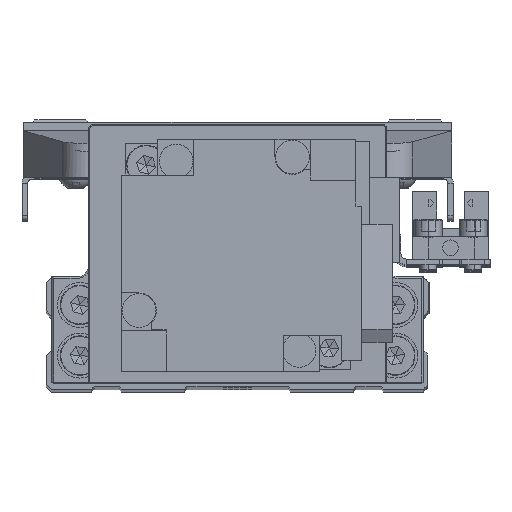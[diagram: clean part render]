
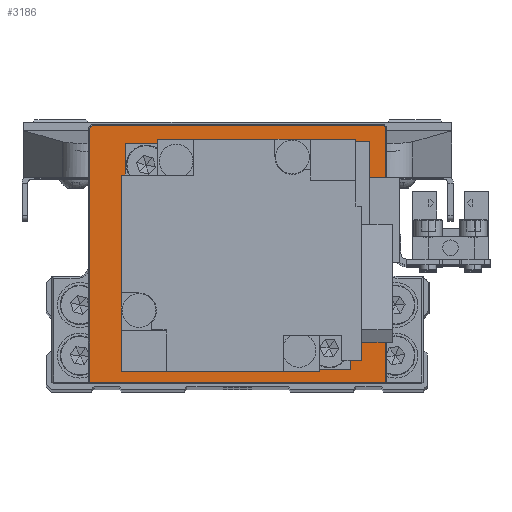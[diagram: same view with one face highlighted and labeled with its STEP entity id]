
A CAD part, top view. The second image highlights one B-rep face of the part: STEP entity #3186.
In plain terms, the highlighted planar face has unit normal (0, 0, 1) as drawn and (0, -1, 0) by its records, which use the part's own axes.
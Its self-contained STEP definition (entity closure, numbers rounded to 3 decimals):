
#492 = DIRECTION ( 'NONE',  ( 0., -1., 0. ) ) ;
#851 = VERTEX_POINT ( 'NONE', #4071 ) ;
#1917 = AXIS2_PLACEMENT_3D ( 'NONE', #26600, #492, #12105 ) ;
#3186 = ADVANCED_FACE ( 'NONE', ( #8286 ), #19940, .T. ) ;
#3790 = LINE ( 'NONE', #15436, #29613 ) ;
#4071 = CARTESIAN_POINT ( 'NONE',  ( -26.3, -4., -22.8 ) ) ;
#5434 = LINE ( 'NONE', #17064, #19137 ) ;
#5438 = DIRECTION ( 'NONE',  ( 0., -1., 0. ) ) ;
#6226 = EDGE_LOOP ( 'NONE', ( #12762, #14867, #15607, #31436, #28035, #10098 ) ) ;
#6418 = DIRECTION ( 'NONE',  ( -1., 0., 0. ) ) ;
#7171 = DIRECTION ( 'NONE',  ( 0., 0., -1. ) ) ;
#7871 = AXIS2_PLACEMENT_3D ( 'NONE', #24690, #36320, #10198 ) ;
#8286 = FACE_OUTER_BOUND ( 'NONE', #6226, .T. ) ;
#10098 = ORIENTED_EDGE ( 'NONE', *, *, #28899, .T. ) ;
#10198 = DIRECTION ( 'NONE',  ( 0., 0., -1. ) ) ;
#11699 = CARTESIAN_POINT ( 'NONE',  ( -26.3, -4., 22. ) ) ;
#12105 = DIRECTION ( 'NONE',  ( 0., 0., -1. ) ) ;
#12315 = EDGE_CURVE ( 'NONE', #26575, #28057, #24324, .T. ) ;
#12699 = VERTEX_POINT ( 'NONE', #15704 ) ;
#12762 = ORIENTED_EDGE ( 'NONE', *, *, #23945, .T. ) ;
#14762 = EDGE_CURVE ( 'NONE', #25586, #33697, #18372, .T. ) ;
#14867 = ORIENTED_EDGE ( 'NONE', *, *, #30197, .T. ) ;
#15436 = CARTESIAN_POINT ( 'NONE',  ( 26.5, -4., -22.8 ) ) ;
#15607 = ORIENTED_EDGE ( 'NONE', *, *, #12315, .T. ) ;
#15704 = CARTESIAN_POINT ( 'NONE',  ( 26.3, -4., -22.8 ) ) ;
#17064 = CARTESIAN_POINT ( 'NONE',  ( 26.3, -4., 22. ) ) ;
#17068 = DIRECTION ( 'NONE',  ( 0., 0., -1. ) ) ;
#17758 = CARTESIAN_POINT ( 'NONE',  ( -25.5, -4., 22.8 ) ) ;
#18372 = CIRCLE ( 'NONE', #1917, 0.8 ) ;
#19137 = VECTOR ( 'NONE', #28686, 1000. ) ;
#19940 = PLANE ( 'NONE',  #35268 ) ;
#20925 = LINE ( 'NONE', #32536, #23687 ) ;
#21671 = LINE ( 'NONE', #33283, #32540 ) ;
#23687 = VECTOR ( 'NONE', #6418, 1000. ) ;
#23945 = EDGE_CURVE ( 'NONE', #851, #12699, #3790, .T. ) ;
#24133 = CARTESIAN_POINT ( 'NONE',  ( 26.3, -4., 22. ) ) ;
#24324 = CIRCLE ( 'NONE', #7871, 0.8 ) ;
#24690 = CARTESIAN_POINT ( 'NONE',  ( 25.5, -4., 22. ) ) ;
#25586 = VERTEX_POINT ( 'NONE', #17758 ) ;
#26575 = VERTEX_POINT ( 'NONE', #24133 ) ;
#26600 = CARTESIAN_POINT ( 'NONE',  ( -25.5, -4., 22. ) ) ;
#27052 = DIRECTION ( 'NONE',  ( 1., 0., 0. ) ) ;
#27620 = EDGE_CURVE ( 'NONE', #28057, #25586, #20925, .T. ) ;
#28035 = ORIENTED_EDGE ( 'NONE', *, *, #14762, .T. ) ;
#28057 = VERTEX_POINT ( 'NONE', #30004 ) ;
#28686 = DIRECTION ( 'NONE',  ( 0., 0., 1. ) ) ;
#28899 = EDGE_CURVE ( 'NONE', #33697, #851, #21671, .T. ) ;
#29613 = VECTOR ( 'NONE', #27052, 1000. ) ;
#30004 = CARTESIAN_POINT ( 'NONE',  ( 25.5, -4., 22.8 ) ) ;
#30197 = EDGE_CURVE ( 'NONE', #12699, #26575, #5434, .T. ) ;
#31436 = ORIENTED_EDGE ( 'NONE', *, *, #27620, .T. ) ;
#31544 = CARTESIAN_POINT ( 'NONE',  ( 0., -4., 0. ) ) ;
#32536 = CARTESIAN_POINT ( 'NONE',  ( -25.5, -4., 22.8 ) ) ;
#32540 = VECTOR ( 'NONE', #7171, 1000. ) ;
#33283 = CARTESIAN_POINT ( 'NONE',  ( -26.3, -4., -23. ) ) ;
#33697 = VERTEX_POINT ( 'NONE', #11699 ) ;
#35268 = AXIS2_PLACEMENT_3D ( 'NONE', #31544, #5438, #17068 ) ;
#36320 = DIRECTION ( 'NONE',  ( 0., -1., 0. ) ) ;
